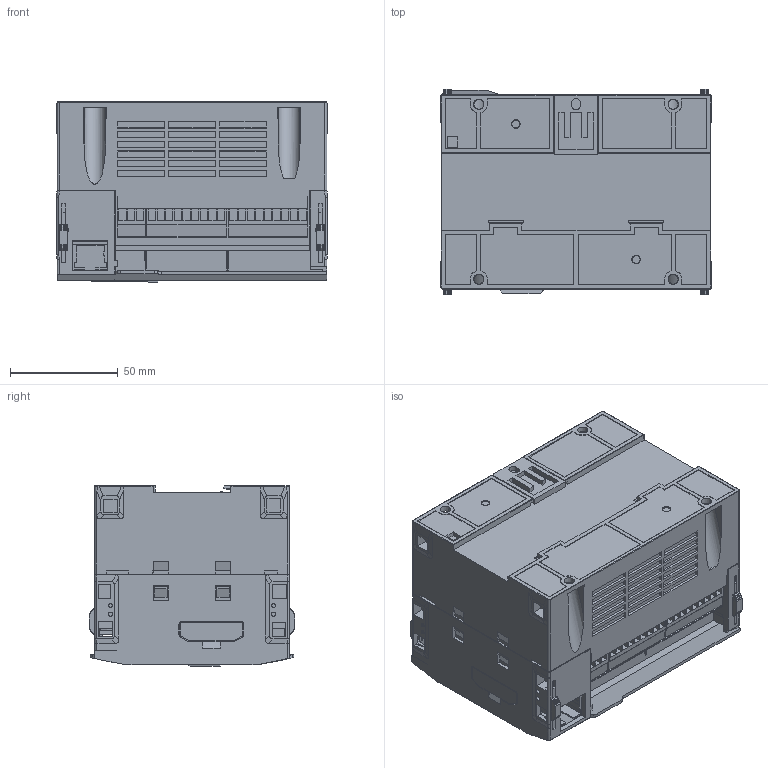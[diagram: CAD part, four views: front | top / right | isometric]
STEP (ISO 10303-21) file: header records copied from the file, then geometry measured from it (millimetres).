
FILE_DESCRIPTION((''),'2;1');
FILE_NAME('32TOP','2022-10-26T16:58:21',('flexem'),(''),'CREO PARAMETRIC BY PTC INC, 2016510','CREO PARAMETRIC BY PTC INC, 2016510','');
FILE_SCHEMA(('CONFIG_CONTROL_DESIGN'));
Products named in the file (1): 32TOP
Bounding box: 125.3 x 95 x 83.5 mm (x, y, z)
Volume: 831350.1 mm3; surface area: 95141.5 mm2
Topology: 1 solids, 14 shells, 2759 faces, 7459 edges, 4911 vertices
Faces by surface type: plane 2234, cylinder 371, cone 62, bspline 40, torus 33, sphere 11, extrusion 8
Entity records: 88658 total; most frequent: CARTESIAN_POINT 19466, ORIENTED_EDGE 14894, DIRECTION 13140, EDGE_CURVE 7449, VECTOR 6262, LINE 6254, VERTEX_POINT 4911, AXIS2_PLACEMENT_3D 3439
